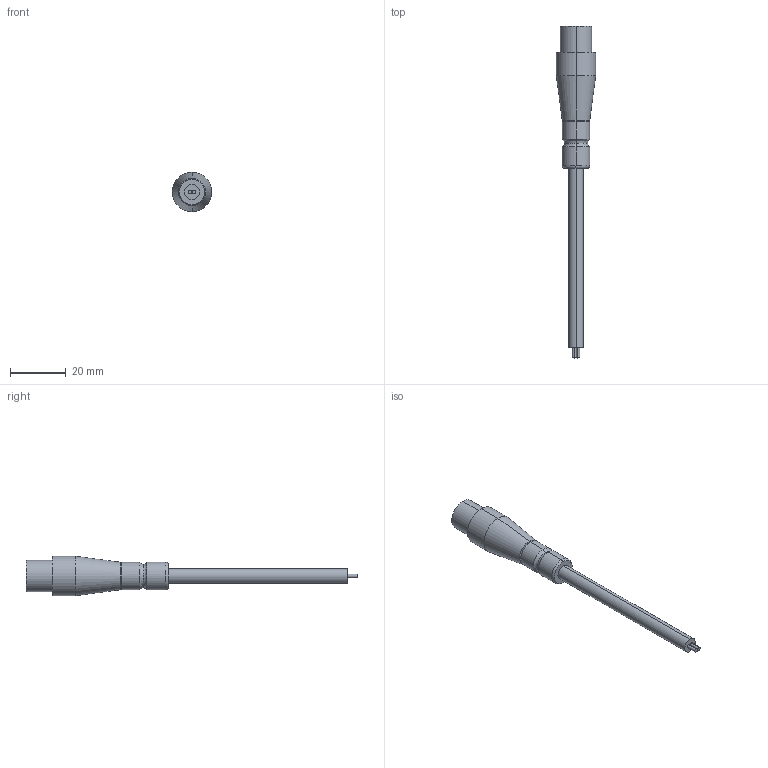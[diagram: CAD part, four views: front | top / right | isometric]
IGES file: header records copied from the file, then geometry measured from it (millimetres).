
Start section: SolidWorks IGES file using analytic representation for surfaces
Global section: file name: S:\Product Visuals\FILES FOR PUBLICATION\SOLID MODELS FOR PUBLICATION\30-fiber\igs\leak-detection-fittings\lc-conductivity-leak-detect-elbow-out.IGS; native system: SolidWorks 2012; preprocessor: SolidWorks 2012; author: rachel.dressel; date: 121120.162345; units: inch
Bounding box: 14.1 x 118.74 x 14.1 mm (x, y, z)
Volume: 6720.9 mm3; surface area: 3543.9 mm2
Topology: 6 solids, 6 shells, 46 faces, 80 edges, 50 vertices
Faces by surface type: revolution 24, plane 16, bspline 6
